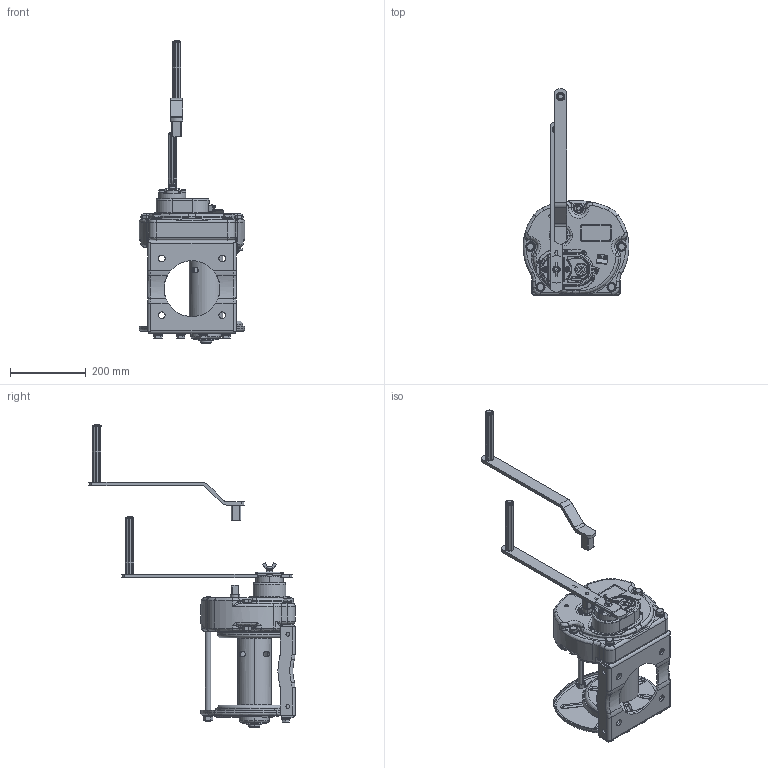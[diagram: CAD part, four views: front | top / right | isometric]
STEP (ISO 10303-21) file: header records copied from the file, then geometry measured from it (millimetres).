
FILE_DESCRIPTION( (''), '2;1');
FILE_NAME ('GM-20.stp','2023-12-20T17:21:45',(''),(''),'spGate 19.8.2 (****-****-****-****)','','');
FILE_SCHEMA (('AUTOMOTIVE_DESIGN'));
Length unit declared in the file: millimetre
Products named in the file (4): Assembly; GM-20-prt0; GM-20-prt1; GM-20-prt2
Assembly tree (3 placements, depth 2):
  Assembly
    GM-20-prt0
    GM-20-prt1
    GM-20-prt2
Bounding box: 279.93 x 545.43 x 801.4 mm (x, y, z)
Volume: 7116082.3 mm3; surface area: 1019607.4 mm2
Topology: 3 solids, 3 shells, 2947 faces, 7677 edges, 4827 vertices
Faces by surface type: plane 1383, cylinder 959, bspline 505, sphere 100
Entity records: 162313 total; most frequent: CARTESIAN_POINT 31267, ORIENTED_EDGE 15190, DIRECTION 14556, COLOUR_RGB 10545, PRESENTATION_STYLE_ASSIGNMENT 10545, STYLED_ITEM 10545, EDGE_CURVE 7595, DRAUGHTING_PRE_DEFINED_CURVE_FONT 7595
